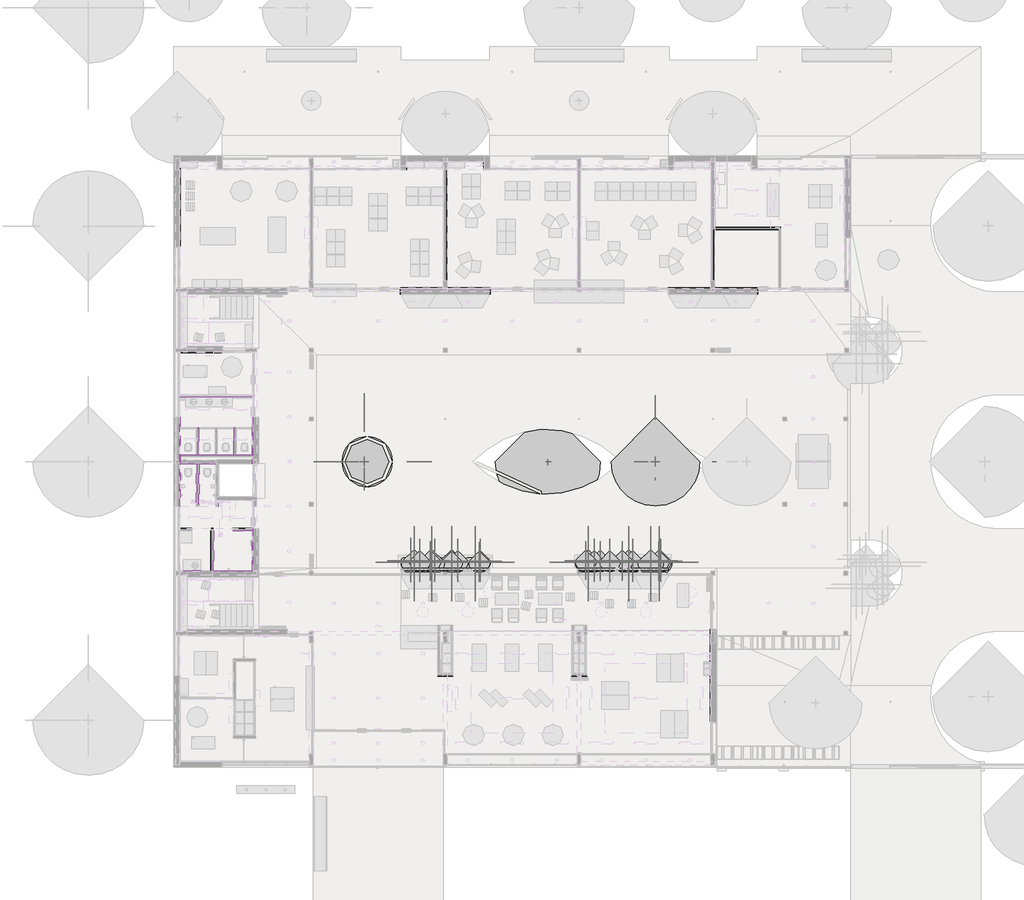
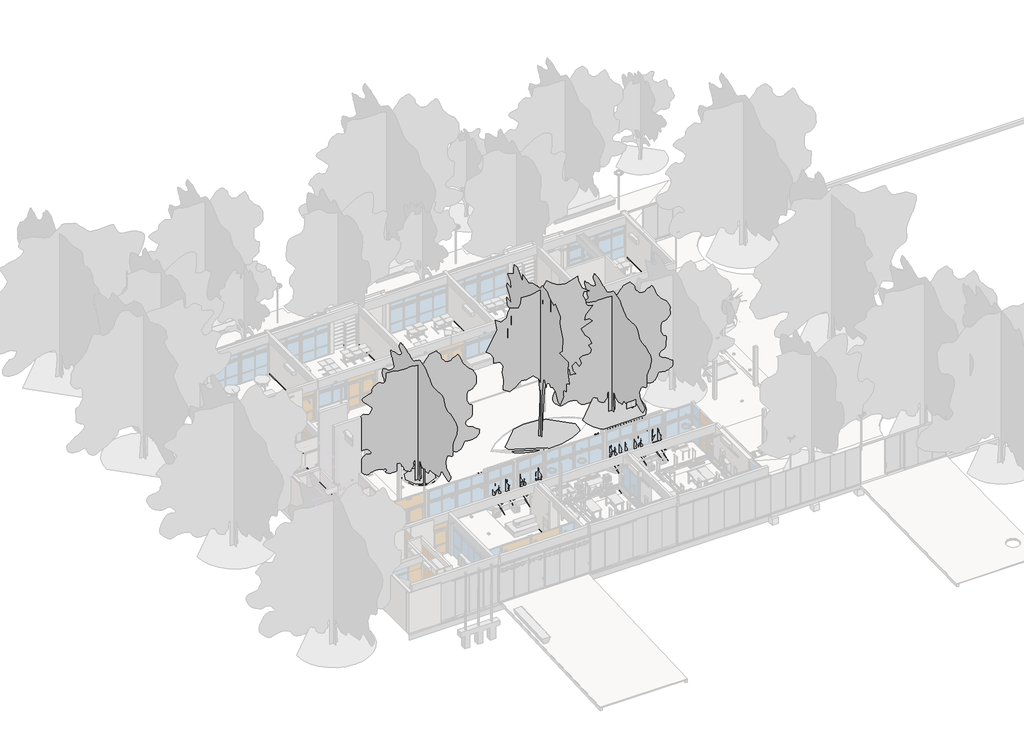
# One storey, part 21 of 22: 32 proxies, 27 geographic elements.
"""IFC4 building model written with IfcOpenShell, lengths in millimetres."""

from ifc_helpers import new_model, si_unit, frame, origin, origin_with_axes, place, context, project, spatial, polyline, outline, extrude, faceted_brep, transform, mapped, element, save
from components import geographic_element_fd73dbfa, geographic_element_77ae9e36, geographic_element_7a9d7ef0, geographic_element_423ec4e2, geographic_element_e3a35ce8

model = new_model("IFC4")

# Units and contexts
model_context = context("Model", 3, world=origin())
ifc_project = project(units=[si_unit("LENGTHUNIT", "METRE", prefix="MILLI")], contexts=[model_context])

# Site, building, storey
site = spatial("IfcSite", under=ifc_project)
building = spatial("IfcBuilding", under=site)
storey = spatial("IfcBuildingStorey", under=building, Name="PLanta baja", Elevation=0.0)

# Proxies
placement = place(None, origin())
element("IfcBuildingElementProxy", 1, Name="23-BAR-ZÓCALO DE BALDOSA H 70mm", ObjectType="23-BAR-ZÓCALO DE BALDOSA H 70mm", at=placement, inside=storey, context=model_context, shape_type="SweptSolid", body=[
    extrude(outline(polyline([(3403.7173694, 31430.2304035), (3413.7173694, 31420.2304035), (3413.7173694, 27020.2304035), (3403.7173694, 27020.2304035), (3403.7173694, 31430.2304035)])), origin_with_axes(), (0.0, 0.0, 1.0), 70.0),
    extrude(outline(polyline([(3413.7173694, 31420.2304035), (3403.7173694, 31430.2304035), (5288.7173693, 31430.2304035), (5278.7173693, 31420.2304035), (3413.7173694, 31420.2304035)])), origin_with_axes(), (0.0, 0.0, 1.0), 70.0),
    extrude(outline(polyline([(5278.7173693, 31420.2304035), (5288.7173693, 31430.2304035), (5288.7173693, 31020.2304035), (5278.7173693, 31020.2304035), (5278.7173693, 31420.2304035)])), origin_with_axes(), (0.0, 0.0, 1.0), 70.0),
])
element("IfcBuildingElementProxy", 2, Name="23-BAR-ZÓCALO DE BALDOSA H 70mm", ObjectType="23-BAR-ZÓCALO DE BALDOSA H 70mm", at=placement, inside=storey, context=model_context, shape_type="SweptSolid", body=[
    extrude(outline(polyline([(19088.7173693, 31020.2304035), (19078.7173693, 31020.2304035), (19078.7173693, 31420.2304035), (19088.7173693, 31430.2304035), (19088.7173693, 31020.2304035)])), origin_with_axes(), (0.0, 0.0, 1.0), 70.0),
    extrude(outline(polyline([(15098.7173693, 31420.2304035), (15088.7173693, 31430.2304035), (19088.7173693, 31430.2304035), (19078.7173693, 31420.2304035), (15098.7173693, 31420.2304035)])), origin_with_axes(), (0.0, 0.0, 1.0), 70.0),
    extrude(outline(polyline([(15088.7173693, 31430.2304035), (15098.7173693, 31420.2304035), (15098.7173693, 31020.2304035), (15088.7173693, 31020.2304035), (15088.7173693, 31430.2304035)])), origin_with_axes(), (0.0, 0.0, 1.0), 70.0),
    extrude(outline(polyline([(28898.7173693, 31020.2272437), (28888.7173693, 31020.2272437), (28888.7173693, 31430.2304035), (28898.7173693, 31420.2304035), (28898.7173693, 31020.2272437)])), origin_with_axes(), (0.0, 0.0, 1.0), 70.0),
    extrude(outline(polyline([(28898.7173693, 31420.2304035), (28888.7173693, 31430.2304035), (30788.7173693, 31430.2304035), (30788.7173693, 31420.2304035), (28898.7173693, 31420.2304035)])), origin_with_axes(), (0.0, 0.0, 1.0), 70.0),
])
element("IfcBuildingElementProxy", 3, Name="23-BAR-ZÓCALO DE EPS", ObjectType="23-BAR-ZÓCALO DE EPS", at=placement, inside=storey, context=model_context, shape_type="SweptSolid", body=[
    extrude(outline(polyline([(34281.7173693, 27933.2304035), (34288.7173693, 27940.2304035), (34288.7173693, 24921.8622631), (34281.7173693, 24921.8622631), (34281.7173693, 27933.2304035)])), origin_with_axes(), (0.0, 0.0, 1.0), 50.0),
    extrude(outline(polyline([(34288.7173693, 27940.2304035), (34281.7173693, 27933.2304035), (30925.7173693, 27933.2304035), (30918.7173693, 27940.2304035), (34288.7173693, 27940.2304035)])), origin_with_axes(), (0.0, 0.0, 1.0), 50.0),
    extrude(outline(polyline([(30796.7173693, 27940.2304035), (30803.7173693, 27940.2304035), (30803.7173693, 25320.2304035), (30796.7173693, 25320.2304035), (30796.7173693, 27940.2304035)])), origin_with_axes(), (0.0, 0.0, 1.0), 50.0),
    extrude(outline(polyline([(30796.7173693, 31020.2304035), (30803.7173693, 31020.2304035), (30803.7173693, 29050.2304035), (30796.7173693, 29050.2304035), (30796.7173693, 31020.2304035)])), origin_with_axes(), (0.0, 0.0, 1.0), 50.0),
    extrude(outline(polyline([(24053.7173694, 31020.2304035), (24060.7173694, 31020.2304035), (24060.7173694, 25320.2304035), (24053.7173694, 25320.2304035), (24053.7173694, 31020.2304035)])), origin_with_axes(), (0.0, 0.0, 1.0), 50.0),
    extrude(outline(polyline([(17153.7173694, 31020.2304035), (17160.7173694, 31020.2304035), (17160.7173694, 25320.2304035), (17153.7173694, 25320.2304035), (17153.7173694, 31020.2304035)])), origin_with_axes(), (0.0, 0.0, 1.0), 50.0),
    extrude(outline(polyline([(10253.7173694, 31020.2304035), (10260.7173694, 31020.2304035), (10260.7173694, 25320.2304035), (10253.7173694, 25320.2304035), (10253.7173694, 31020.2304035)])), origin_with_axes(), (0.0, 0.0, 1.0), 50.0),
    extrude(outline(polyline([(30796.7173693, 29050.2304035), (30803.7173693, 29050.2304035), (30803.7173693, 27940.2304035), (30796.7173693, 27940.2304035), (30796.7173693, 29050.2304035)])), origin_with_axes(), (0.0, 0.0, 1.0), 50.0),
])
element("IfcBuildingElementProxy", 4, Name="23-BAR-ZÓCALO DE EPS", ObjectType="23-BAR-ZÓCALO DE EPS", at=placement, inside=storey, context=model_context, shape_type="SweptSolid", body=[
    extrude(outline(polyline([(30918.7173693, 27940.2304035), (30925.7173693, 27933.2304035), (30925.7173693, 25320.2304035), (30918.7173693, 25320.2304035), (30918.7173693, 27940.2304035)])), origin_with_axes(), (0.0, 0.0, 1.0), 50.0),
    extrude(outline(polyline([(34388.7173693, 28040.2304035), (34395.7173693, 28047.2304035), (34395.7173693, 24921.8622631), (34388.7173693, 24921.8622631), (34388.7173693, 28040.2304035)])), origin_with_axes(), (0.0, 0.0, 1.0), 50.0),
    extrude(outline(polyline([(34395.7173693, 28047.2304035), (34388.7173693, 28040.2304035), (31003.7173693, 28040.2304035), (31003.7173693, 28047.2304035), (34395.7173693, 28047.2304035)])), origin_with_axes(), (0.0, 0.0, 1.0), 50.0),
    extrude(outline(polyline([(23916.7173694, 31020.2304035), (23923.7173694, 31020.2304035), (23923.7173694, 25320.2304035), (23916.7173694, 25320.2304035), (23916.7173694, 31020.2304035)])), origin_with_axes(), (0.0, 0.0, 1.0), 50.0),
    extrude(outline(polyline([(17016.7173694, 31020.2304035), (17023.7173694, 31020.2304035), (17023.7173694, 25320.2304035), (17016.7173694, 25320.2304035), (17016.7173694, 31020.2304035)])), origin_with_axes(), (0.0, 0.0, 1.0), 50.0),
    extrude(outline(polyline([(10116.7173694, 31020.2304035), (10123.7173694, 31020.2304035), (10123.7173694, 25320.2304035), (10116.7173694, 25320.2304035), (10116.7173694, 31020.2304035)])), origin_with_axes(), (0.0, 0.0, 1.0), 50.0),
])
element("IfcBuildingElementProxy", 5, Name="23-BAR-ZÓCALO DE BALDOSA H 70mm", ObjectType="23-BAR-ZÓCALO DE BALDOSA H 70mm", at=placement, inside=storey, context=model_context, shape_type="SweptSolid", body=[
    extrude(outline(polyline([(3788.7173693, 24935.2304035), (3788.7173693, 24945.2304035), (8938.7173694, 24945.2304035), (8938.7173694, 24935.2304035), (3788.7173693, 24935.2304035)])), origin_with_axes(), (0.0, 0.0, 1.0), 70.0),
    extrude(outline(polyline([(14788.7173694, 24920.2304035), (14788.7173694, 24930.2304035), (19388.7173694, 24930.2304035), (19388.7173694, 24920.2304035), (14788.7173694, 24920.2304035)])), origin_with_axes(), (0.0, 0.0, 1.0), 70.0),
    extrude(outline(polyline([(28588.7173694, 24920.2304035), (28588.7173694, 24930.2304035), (33188.7173693, 24930.2304035), (33188.7173693, 24920.2304035), (28588.7173694, 24920.2304035)])), origin_with_axes(), (0.0, 0.0, 1.0), 70.0),
    extrude(outline(polyline([(37663.7173693, 30817.8091111), (37673.7173693, 30817.8091111), (37673.7173693, 27520.2304035), (37663.7173693, 27520.2304035), (37663.7173693, 30817.8091111)])), origin_with_axes(), (0.0, 0.0, 1.0), 70.0),
])
element("IfcBuildingElementProxy", 6, Name="23-BAR-ZÓCALO DE BALDOSA H 70mm", ObjectType="23-BAR-ZÓCALO DE BALDOSA H 70mm", at=placement, inside=storey, context=model_context, shape_type="Brep", body=[
    faceted_brep([(14788.7173694, 24610.2304035, 70.0), (14778.7173694, 24600.2304035, 70.0), (19398.7173694, 24600.2304035, 70.0), (19388.7173694, 24610.2304035, 70.0), (14788.7173694, 24610.2304035, 0.0), (19388.7173694, 24610.2304035, 0.0), (14778.7173694, 24600.2304035, 0.0), (19398.7173694, 24600.2304035, 0.0), (19398.7173694, 24854.2304035, 70.0), (19398.7173694, 24854.2304035, 0.0), (19388.7173694, 24854.2304035, 0.0), (19388.7173694, 24854.2304035, 70.0), (14778.7173694, 24854.2233389, 70.0), (14788.7173694, 24854.2233389, 70.0), (14788.7173694, 24854.2233389, 0.0), (14778.7173694, 24854.2233389, 0.0)], [[[0, 1, 2, 3]], [[4, 0, 3, 5]], [[6, 4, 5, 7]], [[1, 6, 7, 2]], [[8, 9, 10, 11]], [[3, 2, 8, 11]], [[5, 3, 11, 10]], [[7, 5, 10, 9]], [[2, 7, 9, 8]], [[12, 13, 14, 15]], [[13, 12, 1, 0]], [[14, 13, 0, 4]], [[15, 14, 4, 6]], [[12, 15, 6, 1]]]),
    faceted_brep([(28588.7173694, 24610.2304035, 70.0), (28578.7173694, 24600.2304035, 70.0), (33198.7173693, 24600.2304035, 70.0), (33188.7173693, 24610.2304035, 70.0), (28588.7173694, 24610.2304035, 0.0), (33188.7173693, 24610.2304035, 0.0), (28578.7173694, 24600.2304035, 0.0), (33198.7173693, 24600.2304035, 0.0), (28578.7173694, 24854.2398366, 70.0), (28588.7173694, 24854.2398366, 70.0), (28588.7173694, 24854.2398366, 0.0), (28578.7173694, 24854.2398366, 0.0), (33198.7173693, 24854.2420438, 70.0), (33198.7173693, 24854.2420438, 0.0), (33188.7173693, 24854.2420438, 0.0), (33188.7173693, 24854.2420438, 70.0)], [[[0, 1, 2, 3]], [[4, 0, 3, 5]], [[6, 4, 5, 7]], [[1, 6, 7, 2]], [[8, 9, 10, 11]], [[9, 8, 1, 0]], [[10, 9, 0, 4]], [[11, 10, 4, 6]], [[8, 11, 6, 1]], [[12, 13, 14, 15]], [[3, 2, 12, 15]], [[5, 3, 15, 14]], [[7, 5, 14, 13]], [[2, 7, 13, 12]]]),
])
element("IfcBuildingElementProxy", 7, Name="23-BAR-ZÓCALO DE BALDOSA H 70mm", ObjectType="23-BAR-ZÓCALO DE BALDOSA H 70mm", at=placement, inside=storey, context=model_context, shape_type="SweptSolid", body=[
    extrude(outline(polyline([(3788.7173693, 21595.2304035), (3788.7173693, 21605.2304035), (5618.7173693, 21605.2304035), (5618.7173693, 21595.2304035), (3788.7173693, 21595.2304035)])), origin_with_axes(), (0.0, 0.0, 1.0), 70.0),
    extrude(outline(polyline([(3388.7173694, 21595.2304035), (3388.7173694, 21605.2304035), (3788.7173693, 21605.2304035), (3788.7173693, 21595.2304035), (3388.7173694, 21595.2304035)])), origin_with_axes(), (0.0, 0.0, 1.0), 70.0),
])
element("IfcBuildingElementProxy", 8, Name="23-BAR-ZÓCALO DE BALDOSA H 70mm", ObjectType="23-BAR-ZÓCALO DE BALDOSA H 70mm", at=placement, inside=storey, context=model_context, shape_type="SweptSolid", body=[
    extrude(outline(polyline([(3413.7173694, 19420.2304035), (3413.7173694, 19430.2304035), (7134.7173694, 19430.2304035), (7134.7173694, 19420.2304035), (3413.7173694, 19420.2304035)])), origin_with_axes(), (0.0, 0.0, 1.0), 70.0),
])
element("IfcBuildingElementProxy", 9, Name="23-BAR-ZÓCALO DE BALDOSA H 70mm", ObjectType="23-BAR-ZÓCALO DE BALDOSA H 70mm", at=placement, inside=storey, context=model_context, shape_type="SweptSolid", body=[
    extrude(outline(polyline([(5365.9489127, 13670.2304035), (5375.9489127, 13660.2304035), (5250.9489127, 13660.2304035), (5250.9489127, 13670.2304035), (5365.9489127, 13670.2304035)])), frame((0.0, 0.0, 1.0), z_axis=(0.0, 0.0, 1.0), x_axis=(1.0, 0.0, 0.0)), (0.0, 0.0, 1.0), 70.0),
    extrude(outline(polyline([(4400.9489127, 13670.2304035), (4400.9489127, 13660.2304035), (4258.7173694, 13660.2304035), (4258.7173694, 13670.2304035), (4400.9489127, 13670.2304035)])), frame((0.0, 0.0, 1.0), z_axis=(0.0, 0.0, 1.0), x_axis=(1.0, 0.0, 0.0)), (0.0, 0.0, 1.0), 70.0),
    extrude(outline(polyline([(7158.7173694, 13970.2304035), (7168.7173694, 13970.2304035), (7168.7173694, 13670.2304035), (7158.7173694, 13670.2304035), (7158.7173694, 13970.2304035)])), frame((0.0, 0.0, 1.0), z_axis=(0.0, 0.0, 1.0), x_axis=(1.0, 0.0, 0.0)), (0.0, 0.0, 1.0), 70.0),
    extrude(outline(polyline([(5365.9489127, 13945.2304035), (5375.9489127, 13945.2304035), (5375.9489127, 13660.2304035), (5365.9489127, 13670.2304035), (5365.9489127, 13945.2304035)])), frame((0.0, 0.0, 1.0), z_axis=(0.0, 0.0, 1.0), x_axis=(1.0, 0.0, 0.0)), (0.0, 0.0, 1.0), 70.0),
    extrude(outline(polyline([(6133.7173694, 12520.2304035), (6133.7173694, 12530.2304035), (7148.7173693, 12530.2304035), (7148.7173693, 12520.2304035), (6133.7173694, 12520.2304035)])), frame((0.0, 0.0, 1.0), z_axis=(0.0, 0.0, 1.0), x_axis=(1.0, 0.0, 0.0)), (0.0, 0.0, 1.0), 70.0),
    extrude(outline(polyline([(3413.7173694, 12520.2304035), (3413.7173694, 12530.2304035), (4018.7173694, 12530.2304035), (4018.7173694, 12520.2304035), (3413.7173694, 12520.2304035)])), frame((0.0, 0.0, 1.0), z_axis=(0.0, 0.0, 1.0), x_axis=(1.0, 0.0, 0.0)), (0.0, 0.0, 1.0), 70.0),
    extrude(outline(polyline([(5018.7173694, 12520.2304035), (5018.7173694, 12530.2304035), (5133.7173694, 12530.2304035), (5133.7173694, 12520.2304035), (5018.7173694, 12520.2304035)])), frame((0.0, 0.0, 1.0), z_axis=(0.0, 0.0, 1.0), x_axis=(1.0, 0.0, 0.0)), (0.0, 0.0, 1.0), 70.0),
])
element("IfcBuildingElementProxy", 10, Name="23-BAR-ZÓCALO DE BALDOSA H 70mm", ObjectType="23-BAR-ZÓCALO DE BALDOSA H 70mm", at=placement, inside=storey, context=model_context, shape_type="SweptSolid", body=[
    extrude(outline(polyline([(3413.7173694, 12400.2304035), (3413.7173694, 12410.2304035), (4018.7173694, 12410.2304035), (4018.7173694, 12400.2304035), (3413.7173694, 12400.2304035)])), frame((0.0, 0.0, 1.0), z_axis=(0.0, 0.0, 1.0), x_axis=(1.0, 0.0, 0.0)), (0.0, 0.0, 1.0), 70.0),
    extrude(outline(polyline([(5018.7173694, 10335.2304035), (5008.7173694, 10345.2304035), (5008.7173694, 12410.2304035), (5018.7173694, 12410.2304035), (5018.7173694, 10335.2304035)])), frame((0.0, 0.0, 1.0), z_axis=(0.0, 0.0, 1.0), x_axis=(1.0, 0.0, 0.0)), (0.0, 0.0, 1.0), 70.0),
    extrude(outline(polyline([(5008.7173694, 10345.2304035), (5018.7173694, 10335.2304035), (4437.7575549, 10335.2304035), (4437.7575549, 10345.2304035), (5008.7173694, 10345.2304035)])), frame((0.0, 0.0, 1.0), z_axis=(0.0, 0.0, 1.0), x_axis=(1.0, 0.0, 0.0)), (0.0, 0.0, 1.0), 70.0),
    extrude(outline(polyline([(5018.7173694, 12400.2304035), (5018.7173694, 12410.2304035), (5133.7173694, 12410.2304035), (5133.7173694, 12400.2304035), (5018.7173694, 12400.2304035)])), frame((0.0, 0.0, 1.0), z_axis=(0.0, 0.0, 1.0), x_axis=(1.0, 0.0, 0.0)), (0.0, 0.0, 1.0), 70.0),
])
element("IfcBuildingElementProxy", 11, Name="23-BAR-ZÓCALO DE BALDOSA H 70mm", ObjectType="23-BAR-ZÓCALO DE BALDOSA H 70mm", at=placement, inside=storey, context=model_context, shape_type="SweptSolid", body=[
    extrude(outline(polyline([(3388.7173694, 10335.2304035), (3388.7173694, 10345.2304035), (3641.7575549, 10345.2304035), (3641.7575549, 10335.2304035), (3388.7173694, 10335.2304035)])), origin_with_axes(), (0.0, 0.0, 1.0), 70.0),
])
element("IfcBuildingElementProxy", 12, Name="23-BAR-ZÓCALO DE BALDOSA H 70mm", ObjectType="23-BAR-ZÓCALO DE BALDOSA H 70mm", at=placement, inside=storey, context=model_context, shape_type="SweptSolid", body=[
    extrude(outline(polyline([(3788.7173693, 6995.2304035), (3788.7173693, 7005.2304035), (8938.7173694, 7005.2304035), (8938.7173694, 6995.2304035), (3788.7173693, 6995.2304035)])), origin_with_axes(), (0.0, 0.0, 1.0), 70.0),
])
element("IfcBuildingElementProxy", 13, Name="23-BAR-ZÓCALO L DE CHAPA PLEGADA", ObjectType="23-BAR-ZÓCALO L DE CHAPA PLEGADA", at=placement, inside=storey, context=model_context, shape_type="Brep", body=[
    faceted_brep([(7315.7173693, 1718.2304035, 0.0), (7315.7173693, 1718.2304035, 50.0), (6161.7173693, 1718.2304035, 50.0), (6161.7173693, 1718.2304035, 0.0), (7313.7173693, 1720.2304035, 0.0), (6163.7173693, 1720.2304035, 0.0), (7313.7173693, 1720.2304035, 50.0), (6163.7173693, 1720.2304035, 50.0), (7315.7173693, 1840.2304035, 50.0), (7315.7173693, 1840.2304035, 0.0), (7313.7173693, 1840.2304035, 0.0), (7313.7173693, 1840.2304035, 50.0), (6161.7173693, 1835.2304035, 50.0), (6163.7173693, 1835.2304035, 50.0), (6163.7173693, 1835.2304035, 0.0), (6161.7173693, 1835.2304035, 0.0)], [[[0, 1, 2, 3]], [[4, 0, 3, 5]], [[6, 4, 5, 7]], [[1, 6, 7, 2]], [[8, 9, 10, 11]], [[9, 8, 1, 0]], [[10, 9, 0, 4]], [[11, 10, 4, 6]], [[8, 11, 6, 1]], [[12, 13, 14, 15]], [[3, 2, 12, 15]], [[5, 3, 15, 14]], [[7, 5, 14, 13]], [[2, 7, 13, 12]]]),
    faceted_brep([(6161.7173693, 5797.2304035, 50.0), (6161.7173693, 5797.2304035, 0.0), (6163.7173693, 5795.2304035, 0.0), (6163.7173693, 5795.2304035, 50.0), (7313.7173693, 5795.2304035, 50.0), (7315.7173693, 5797.2304035, 50.0), (7313.7173693, 5795.2304035, 0.0), (7315.7173693, 5797.2304035, 0.0), (7315.7173693, 5680.2304035, 50.0), (7313.7173693, 5680.2304035, 50.0), (7313.7173693, 5680.2304035, 0.0), (7315.7173693, 5680.2304035, 0.0)], [[[0, 1, 2, 3]], [[4, 5, 0, 3]], [[6, 4, 3, 2]], [[7, 6, 2, 1]], [[5, 7, 1, 0]], [[8, 9, 10, 11]], [[9, 8, 5, 4]], [[10, 9, 4, 6]], [[11, 10, 6, 7]], [[8, 11, 7, 5]]]),
    faceted_brep([(6161.7173693, 5797.2304035, 50.0), (6163.7173693, 5795.2304035, 50.0), (6163.7173693, 5795.2304035, 0.0), (6161.7173693, 5797.2304035, 0.0), (6161.7173693, 3685.2304035, 50.0), (6161.7173693, 3685.2304035, 0.0), (6163.7173693, 3685.2304035, 0.0), (6163.7173693, 3685.2304035, 50.0)], [[[0, 1, 2, 3]], [[4, 5, 6, 7]], [[1, 0, 4, 7]], [[2, 1, 7, 6]], [[3, 2, 6, 5]], [[0, 3, 5, 4]]]),
])
element("IfcBuildingElementProxy", 14, Name="23-BAR-ZÓCALO DE EPS", ObjectType="23-BAR-ZÓCALO DE EPS", at=placement, inside=storey, context=model_context, shape_type="SweptSolid", body=[
    extrude(outline(polyline([(6688.7173693, 1842.2304035), (6688.7173693, 1835.2304035), (6163.7173693, 1835.2304035), (6163.7173693, 1842.2304035), (6688.7173693, 1842.2304035)])), origin_with_axes(), (0.0, 0.0, 1.0), 50.0),
    extrude(outline(polyline([(6278.7173693, 5680.2304035), (6285.7173693, 5673.2304035), (6285.7173693, 3788.5304035), (6278.7173693, 3788.5304035), (6278.7173693, 5680.2304035)])), origin_with_axes(), (0.0, 0.0, 1.0), 50.0),
    extrude(outline(polyline([(7266.0033396, 5680.2304035), (7266.0033396, 5673.2304035), (6285.7173693, 5673.2304035), (6278.7173693, 5680.2304035), (7266.0033396, 5680.2304035)])), origin_with_axes(), (0.0, 0.0, 1.0), 50.0),
])
element("IfcBuildingElementProxy", 15, Name="23-BAR-ZÓCALO DE MADERA h=7cm", ObjectType="23-BAR-ZÓCALO DE MADERA h=7cm", at=placement, inside=storey, context=model_context, shape_type="SweptSolid", body=[
    extrude(outline(polyline([(16988.7173694, 10120.2304035), (16988.7173694, 10110.2304035), (14888.7173693, 10110.2304035), (14888.7173693, 10120.2304035), (16988.7173694, 10120.2304035)])), origin_with_axes(), (0.0, 0.0, 1.0), 70.0),
    extrude(outline(polyline([(19288.7173694, 10120.2304035), (19288.7173694, 10110.2304035), (17188.7173694, 10110.2304035), (17188.7173694, 10120.2304035), (19288.7173694, 10120.2304035)])), origin_with_axes(), (0.0, 0.0, 1.0), 70.0),
])
element("IfcBuildingElementProxy", 16, Name="23-BAR-ZÓCALO DE MADERA h=7cm", ObjectType="23-BAR-ZÓCALO DE MADERA h=7cm", at=placement, inside=storey, context=model_context, shape_type="SweptSolid", body=[
    extrude(outline(polyline([(24088.7173694, 10110.2304035), (24088.7173694, 10120.2304035), (28488.7173694, 10120.2304035), (28488.7173694, 10110.2304035), (24088.7173694, 10110.2304035)])), origin_with_axes(), (0.0, 0.0, 1.0), 70.0),
])
element("IfcBuildingElementProxy", 17, Name="23-BAR-ZÓCALO DE BALDOSA H 70mm", ObjectType="23-BAR-ZÓCALO DE BALDOSA H 70mm", at=placement, inside=storey, context=model_context, shape_type="SweptSolid", body=[
    extrude(outline(polyline([(30763.7173693, 7330.2304035), (30773.7173693, 7330.2304035), (30773.7173693, 2520.2304035), (30763.7173693, 2520.2304035), (30763.7173693, 7330.2304035)])), origin_with_axes(), (0.0, 0.0, 1.0), 70.0),
])
element("IfcBuildingElementProxy", 18, Name="23-BAR-CANTONERA PERFIL L", ObjectType="23-BAR-CANTONERA PERFIL L", at=placement, inside=storey, context=model_context, shape_type="Brep", body=[
    faceted_brep([(6192.7173694, 16320.2304035, 2101.0), (6182.7173694, 16320.2304035, 2101.0), (6182.7173694, 16320.2304035, 2091.0), (6183.7173694, 16320.2304035, 2091.0), (6183.7173694, 16320.2304035, 2100.0), (6192.7173694, 16320.2304035, 2100.0), (6192.7173694, 17711.2304035, 2101.0), (6182.7173694, 17721.2304035, 2101.0), (6182.7173694, 17721.2304035, 2091.0), (6183.7173694, 17720.2304035, 2091.0), (6183.7173694, 17720.2304035, 2100.0), (6192.7173694, 17711.2304035, 2100.0), (6251.488731, 17711.2304035, 2101.0), (6251.488731, 17711.2304035, 2100.0), (6251.488731, 17720.2304035, 2100.0), (6251.488731, 17720.2304035, 2091.0), (6251.488731, 17721.2304035, 2091.0), (6251.488731, 17721.2304035, 2101.0)], [[[0, 1, 2, 3, 4, 5]], [[1, 0, 6, 7]], [[2, 1, 7, 8]], [[3, 2, 8, 9]], [[4, 3, 9, 10]], [[5, 4, 10, 11]], [[0, 5, 11, 6]], [[12, 13, 14, 15, 16, 17]], [[7, 6, 12, 17]], [[8, 7, 17, 16]], [[9, 8, 16, 15]], [[10, 9, 15, 14]], [[11, 10, 14, 13]], [[6, 11, 13, 12]]]),
    faceted_brep([(5227.7173694, 16320.2304035, 2101.0), (5217.7173694, 16320.2304035, 2101.0), (5217.7173694, 16320.2304035, 2091.0), (5218.7173694, 16320.2304035, 2091.0), (5218.7173694, 16320.2304035, 2100.0), (5227.7173694, 16320.2304035, 2100.0), (5227.7173694, 17711.2304035, 2101.0), (5217.7173694, 17721.2304035, 2101.0), (5217.7173694, 17721.2304035, 2091.0), (5218.7173694, 17720.2304035, 2091.0), (5218.7173694, 17720.2304035, 2100.0), (5227.7173694, 17711.2304035, 2100.0), (5283.7173694, 17711.2304035, 2101.0), (5283.7173694, 17711.2304035, 2100.0), (5283.7173694, 17720.2304035, 2100.0), (5283.7173694, 17720.2304035, 2091.0), (5283.7173694, 17721.2304035, 2091.0), (5283.7173694, 17721.2304035, 2101.0)], [[[0, 1, 2, 3, 4, 5]], [[1, 0, 6, 7]], [[2, 1, 7, 8]], [[3, 2, 8, 9]], [[4, 3, 9, 10]], [[5, 4, 10, 11]], [[0, 5, 11, 6]], [[12, 13, 14, 15, 16, 17]], [[7, 6, 12, 17]], [[8, 7, 17, 16]], [[9, 8, 16, 15]], [[10, 9, 15, 14]], [[11, 10, 14, 13]], [[6, 11, 13, 12]]]),
    faceted_brep([(4262.7173694, 16320.2304035, 2101.0), (4252.7173694, 16320.2304035, 2101.0), (4252.7173694, 16320.2304035, 2091.0), (4253.7173694, 16320.2304035, 2091.0), (4253.7173694, 16320.2304035, 2100.0), (4262.7173694, 16320.2304035, 2100.0), (4262.7173694, 17711.2304035, 2101.0), (4252.7173694, 17721.2304035, 2101.0), (4252.7173694, 17721.2304035, 2091.0), (4253.7173694, 17720.2304035, 2091.0), (4253.7173694, 17720.2304035, 2100.0), (4262.7173694, 17711.2304035, 2100.0), (4311.8901328, 17711.2304035, 2101.0), (4311.8901328, 17711.2304035, 2100.0), (4311.8901328, 17720.2304035, 2100.0), (4311.8901328, 17720.2304035, 2091.0), (4311.8901328, 17721.2304035, 2091.0), (4311.8901328, 17721.2304035, 2101.0)], [[[0, 1, 2, 3, 4, 5]], [[1, 0, 6, 7]], [[2, 1, 7, 8]], [[3, 2, 8, 9]], [[4, 3, 9, 10]], [[5, 4, 10, 11]], [[0, 5, 11, 6]], [[12, 13, 14, 15, 16, 17]], [[7, 6, 12, 17]], [[8, 7, 17, 16]], [[9, 8, 16, 15]], [[10, 9, 15, 14]], [[11, 10, 14, 13]], [[6, 11, 13, 12]]]),
])
element("IfcBuildingElementProxy", 19, Name="23-BAR-CANTONERA PERFIL L", ObjectType="23-BAR-CANTONERA PERFIL L", at=placement, inside=storey, context=model_context, shape_type="Brep", body=[
    faceted_brep([(6294.7173694, 16320.2304035, 2101.0), (6294.7173694, 16320.2304035, 2100.0), (6303.7173694, 16320.2304035, 2100.0), (6303.7173694, 16320.2304035, 2091.0), (6304.7173694, 16320.2304035, 2091.0), (6304.7173694, 16320.2304035, 2101.0), (6294.7173694, 17711.2304035, 2101.0), (6294.7173694, 17711.2304035, 2100.0), (6303.7173694, 17720.2304035, 2100.0), (6303.7173694, 17720.2304035, 2091.0), (6304.7173694, 17721.2304035, 2091.0), (6304.7173694, 17721.2304035, 2101.0), (6251.488731, 17711.2304035, 2101.0), (6251.488731, 17721.2304035, 2101.0), (6251.488731, 17721.2304035, 2091.0), (6251.488731, 17720.2304035, 2091.0), (6251.488731, 17720.2304035, 2100.0), (6251.488731, 17711.2304035, 2100.0)], [[[0, 1, 2, 3, 4, 5]], [[1, 0, 6, 7]], [[2, 1, 7, 8]], [[3, 2, 8, 9]], [[4, 3, 9, 10]], [[5, 4, 10, 11]], [[0, 5, 11, 6]], [[12, 13, 14, 15, 16, 17]], [[7, 6, 12, 17]], [[8, 7, 17, 16]], [[9, 8, 16, 15]], [[10, 9, 15, 14]], [[11, 10, 14, 13]], [[6, 11, 13, 12]]]),
    faceted_brep([(5329.7173694, 16320.2304035, 2101.0), (5329.7173694, 16320.2304035, 2100.0), (5338.7173694, 16320.2304035, 2100.0), (5338.7173694, 16320.2304035, 2091.0), (5339.7173694, 16320.2304035, 2091.0), (5339.7173694, 16320.2304035, 2101.0), (5329.7173694, 17711.2304035, 2101.0), (5329.7173694, 17711.2304035, 2100.0), (5338.7173694, 17720.2304035, 2100.0), (5338.7173694, 17720.2304035, 2091.0), (5339.7173694, 17721.2304035, 2091.0), (5339.7173694, 17721.2304035, 2101.0), (5283.7173694, 17711.2304035, 2101.0), (5283.7173694, 17721.2304035, 2101.0), (5283.7173694, 17721.2304035, 2091.0), (5283.7173694, 17720.2304035, 2091.0), (5283.7173694, 17720.2304035, 2100.0), (5283.7173694, 17711.2304035, 2100.0)], [[[0, 1, 2, 3, 4, 5]], [[1, 0, 6, 7]], [[2, 1, 7, 8]], [[3, 2, 8, 9]], [[4, 3, 9, 10]], [[5, 4, 10, 11]], [[0, 5, 11, 6]], [[12, 13, 14, 15, 16, 17]], [[7, 6, 12, 17]], [[8, 7, 17, 16]], [[9, 8, 16, 15]], [[10, 9, 15, 14]], [[11, 10, 14, 13]], [[6, 11, 13, 12]]]),
    faceted_brep([(4364.7173694, 16320.2304035, 2101.0), (4364.7173694, 16320.2304035, 2100.0), (4373.7173694, 16320.2304035, 2100.0), (4373.7173694, 16320.2304035, 2091.0), (4374.7173694, 16320.2304035, 2091.0), (4374.7173694, 16320.2304035, 2101.0), (4364.7173694, 17711.2304035, 2101.0), (4364.7173694, 17711.2304035, 2100.0), (4373.7173694, 17720.2304035, 2100.0), (4373.7173694, 17720.2304035, 2091.0), (4374.7173694, 17721.2304035, 2091.0), (4374.7173694, 17721.2304035, 2101.0), (4311.8901328, 17711.2304035, 2101.0), (4311.8901328, 17721.2304035, 2101.0), (4311.8901328, 17721.2304035, 2091.0), (4311.8901328, 17720.2304035, 2091.0), (4311.8901328, 17720.2304035, 2100.0), (4311.8901328, 17711.2304035, 2100.0)], [[[0, 1, 2, 3, 4, 5]], [[1, 0, 6, 7]], [[2, 1, 7, 8]], [[3, 2, 8, 9]], [[4, 3, 9, 10]], [[5, 4, 10, 11]], [[0, 5, 11, 6]], [[12, 13, 14, 15, 16, 17]], [[7, 6, 12, 17]], [[8, 7, 17, 16]], [[9, 8, 16, 15]], [[10, 9, 15, 14]], [[11, 10, 14, 13]], [[6, 11, 13, 12]]]),
])
element("IfcBuildingElementProxy", 20, Name="23-BAR-BUÑA PLANCHUELA 20x3.3", ObjectType="23-BAR-BUÑA PLANCHUELA 20x3.3", at=placement, inside=storey, context=model_context, shape_type="SweptSolid", body=[
    extrude(outline(polyline([(7148.7173694, 16330.3304035), (7148.7173694, 16310.3304035), (3408.7173694, 16310.3304035), (3408.7173694, 16330.3304035), (7148.7173694, 16330.3304035)])), frame((0.0, 0.0, 2100.0), z_axis=(0.0, 0.0, 1.0), x_axis=(1.0, 0.0, 0.0)), (0.0, 0.0, 1.0), 3.3),
    extrude(outline(polyline([(3418.8173694, 13670.2304035), (3398.8173694, 13670.2304035), (3398.8173694, 18270.2304035), (3418.8173694, 18270.2304035), (3418.8173694, 13670.2304035)])), frame((0.0, 0.0, 2100.0), z_axis=(0.0, 0.0, 1.0), x_axis=(1.0, 0.0, 0.0)), (0.0, 0.0, 1.0), 3.3),
    extrude(outline(polyline([(7138.6173694, 18270.2304035), (7158.6173694, 18270.2304035), (7158.6173694, 15870.2304035), (7138.6173694, 15870.2304035), (7138.6173694, 18270.2304035)])), frame((0.0, 0.0, 2100.0), z_axis=(0.0, 0.0, 1.0), x_axis=(1.0, 0.0, 0.0)), (0.0, 0.0, 1.0), 3.3),
])
element("IfcBuildingElementProxy", 21, Name="23-BAR-BUÑA PLANCHUELA 20x3.3", ObjectType="23-BAR-BUÑA PLANCHUELA 20x3.3", at=placement, inside=storey, context=model_context, shape_type="SweptSolid", body=[
    extrude(outline(polyline([(3413.7173694, 19300.1304035), (3413.7173694, 19320.1304035), (7134.7173694, 19320.1304035), (7134.7173694, 19300.1304035), (3413.7173694, 19300.1304035)])), frame((0.0, 0.0, 2110.0), z_axis=(0.0, 0.0, 1.0), x_axis=(1.0, 0.0, 0.0)), (0.0, 0.0, 1.0), 3.3),
])
element("IfcBuildingElementProxy", 22, Name="23-BAR-BUÑA PLANCHUELA 20x3.3", ObjectType="23-BAR-BUÑA PLANCHUELA 20x3.3", at=placement, inside=storey, context=model_context, shape_type="SweptSolid", body=[
    extrude(outline(polyline([(3408.7173694, 15840.1304035), (3408.7173694, 15860.1304035), (4277.4203708, 15860.1304035), (4257.4203708, 15840.1304035), (3408.7173694, 15840.1304035)])), frame((0.0, 0.0, 2100.0), z_axis=(0.0, 0.0, 1.0), x_axis=(1.0, 0.0, 0.0)), (0.0, 0.0, 1.0), 3.3),
    extrude(outline(polyline([(4277.4203708, 13865.2304035), (4257.4203708, 13865.2304035), (4257.4203708, 15840.1304035), (4277.4203708, 15860.1304035), (4277.4203708, 13865.2304035)])), frame((0.0, 0.0, 2100.0), z_axis=(0.0, 0.0, 1.0), x_axis=(1.0, 0.0, 0.0)), (0.0, 0.0, 1.0), 3.3),
    extrude(outline(polyline([(5240.8489127, 15870.2304035), (5260.8489127, 15870.2304035), (5260.8489127, 13950.2304035), (5240.8489127, 13950.2304035), (5240.8489127, 15870.2304035)])), frame((0.0, 0.0, 2100.0), z_axis=(0.0, 0.0, 1.0), x_axis=(1.0, 0.0, 0.0)), (0.0, 0.0, 1.0), 3.3),
])
element("IfcBuildingElementProxy", 23, Name="23-BAR-BUÑA PLANCHUELA 20x3.3", ObjectType="23-BAR-BUÑA PLANCHUELA 20x3.3", at=placement, inside=storey, context=model_context, shape_type="SweptSolid", body=[
    extrude(outline(polyline([(4397.6203708, 13780.2304035), (4377.6203708, 13780.2304035), (4377.6203708, 15860.1304035), (4397.6203708, 15840.1304035), (4397.6203708, 13780.2304035)])), frame((0.0, 0.0, 2100.0), z_axis=(0.0, 0.0, 1.0), x_axis=(1.0, 0.0, 0.0)), (0.0, 0.0, 1.0), 3.3),
])
element("IfcBuildingElementProxy", 24, Name="23-BAR-BUÑA PLANCHUELA 20x3.3", ObjectType="23-BAR-BUÑA PLANCHUELA 20x3.3", at=placement, inside=storey, context=model_context, shape_type="SweptSolid", body=[
    extrude(outline(polyline([(4387.5203708, 15840.1304035), (4387.5203708, 15860.1304035), (5268.7173693, 15860.1304035), (5268.7173693, 15840.1304035), (4387.5203708, 15840.1304035)])), frame((0.0, 0.0, 2100.0), z_axis=(0.0, 0.0, 1.0), x_axis=(1.0, 0.0, 0.0)), (0.0, 0.0, 1.0), 3.3),
])
element("IfcBuildingElementProxy", 25, Name="23-BAR-BUÑA PLANCHUELA 20x3.3", ObjectType="23-BAR-BUÑA PLANCHUELA 20x3.3", at=placement, inside=storey, context=model_context, shape_type="SweptSolid", body=[
    extrude(outline(polyline([(7158.6173693, 10330.3304035), (7138.6173693, 10350.3304035), (7138.6173693, 12520.2304035), (7158.6173693, 12520.2304035), (7158.6173693, 10330.3304035)])), frame((0.0, 0.0, 2100.0), z_axis=(0.0, 0.0, 1.0), x_axis=(1.0, 0.0, 0.0)), (0.0, 0.0, 1.0), 3.3),
    extrude(outline(polyline([(7138.6173693, 10350.3304035), (7158.6173693, 10330.3304035), (5123.8173694, 10330.3304035), (5143.8173694, 10350.3304035), (7138.6173693, 10350.3304035)])), frame((0.0, 0.0, 2100.0), z_axis=(0.0, 0.0, 1.0), x_axis=(1.0, 0.0, 0.0)), (0.0, 0.0, 1.0), 3.3),
    extrude(outline(polyline([(6133.7173694, 12395.1304035), (6133.7173694, 12415.1304035), (7148.7173693, 12415.1304035), (7148.7173693, 12395.1304035), (6133.7173694, 12395.1304035)])), frame((0.0, 0.0, 2100.0), z_axis=(0.0, 0.0, 1.0), x_axis=(1.0, 0.0, 0.0)), (0.0, 0.0, 1.0), 3.3),
    extrude(outline(polyline([(5143.8173694, 10350.3304035), (5123.8173694, 10330.3304035), (5123.8173694, 12415.2304035), (5143.8173694, 12415.2304035), (5143.8173694, 10350.3304035)])), frame((0.0, 0.0, 2100.0), z_axis=(0.0, 0.0, 1.0), x_axis=(1.0, 0.0, 0.0)), (0.0, 0.0, 1.0), 3.3),
])
element("IfcBuildingElementProxy", 26, Name="23-BAR-BUÑA PLANCHUELA 20x3.3", ObjectType="23-BAR-BUÑA PLANCHUELA 20x3.3", at=placement, inside=storey, context=model_context, shape_type="SweptSolid", body=[
    extrude(outline(polyline([(4489.7575549, 10355.3304035), (4489.7575549, 10335.3304035), (4486.4575549, 10335.3304035), (4486.4575549, 10355.3304035), (4489.7575549, 10355.3304035)])), frame((0.0, 0.0, 900.0), z_axis=(0.0, 0.0, 1.0), x_axis=(1.0, 0.0, 0.0)), (0.0, 0.0, 1.0), 603.3),
])
element("IfcBuildingElementProxy", 27, Name="23-BAR-BUÑA PLANCHUELA 20x3.3", ObjectType="23-BAR-BUÑA PLANCHUELA 20x3.3", at=placement, inside=storey, context=model_context, shape_type="SweptSolid", body=[
    extrude(outline(polyline([(3593.0575549, 10355.3304035), (3593.0575549, 10335.3304035), (3589.7575549, 10335.3304035), (3589.7575549, 10355.3304035), (3593.0575549, 10355.3304035)])), frame((0.0, 0.0, 900.0), z_axis=(0.0, 0.0, 1.0), x_axis=(1.0, 0.0, 0.0)), (0.0, 0.0, 1.0), 603.3),
])
element("IfcBuildingElementProxy", 28, Name="23-BAR-BUÑA PLANCHUELA 20x3.3", ObjectType="23-BAR-BUÑA PLANCHUELA 20x3.3", at=placement, inside=storey, context=model_context, shape_type="SweptSolid", body=[
    extrude(outline(polyline([(3589.7575549, 10335.3304035), (3589.7575549, 10355.3304035), (4489.7575549, 10355.3304035), (4489.7575549, 10335.3304035), (3589.7575549, 10335.3304035)])), frame((0.0, 0.0, 1500.0), z_axis=(0.0, 0.0, 1.0), x_axis=(1.0, 0.0, 0.0)), (0.0, 0.0, 1.0), 3.3),
])
element("IfcBuildingElementProxy", 29, Name="23-BAR-ZÓCALO L DE CHAPA PLEGADA", ObjectType="23-BAR-ZÓCALO L DE CHAPA PLEGADA", at=placement, inside=storey, context=model_context, shape_type="SweptSolid", body=[
    extrude(outline(polyline([(17473.7173693, 7522.2304035), (17475.7173693, 7522.2304035), (17475.7173693, 7220.5637368), (17473.7173693, 7220.5637368), (17473.7173693, 7522.2304035)])), origin_with_axes(), (0.0, 0.0, 1.0), 50.0),
    extrude(outline(polyline([(17473.7173693, 5033.5637368), (17475.7173693, 5033.5637368), (17475.7173693, 4916.5637368), (17473.7173693, 4918.5637368), (17473.7173693, 5033.5637368)])), origin_with_axes(), (0.0, 0.0, 1.0), 50.0),
    extrude(outline(polyline([(17473.7173693, 4918.5637368), (17475.7173693, 4916.5637368), (16701.0966893, 4916.5637368), (16703.0966893, 4918.5637368), (17473.7173693, 4918.5637368)])), origin_with_axes(), (0.0, 0.0, 1.0), 50.0),
    extrude(outline(polyline([(16703.0966893, 4918.5637368), (16701.0966893, 4916.5637368), (16701.0966893, 7522.2304035), (16703.0966893, 7522.2304035), (16703.0966893, 4918.5637368)])), origin_with_axes(), (0.0, 0.0, 1.0), 50.0),
])
element("IfcBuildingElementProxy", 30, Name="23-BAR-ZÓCALO L DE CHAPA PLEGADA", ObjectType="23-BAR-ZÓCALO L DE CHAPA PLEGADA", at=placement, inside=storey, context=model_context, shape_type="SweptSolid", body=[
    extrude(outline(polyline([(24373.7173693, 7522.2304035), (24375.7173693, 7522.2304035), (24375.7173693, 7020.5637368), (24373.7173693, 7020.5637368), (24373.7173693, 7522.2304035)])), origin_with_axes(), (0.0, 0.0, 1.0), 50.0),
    extrude(outline(polyline([(24373.7173693, 5033.5637368), (24375.7173693, 5033.5637368), (24375.7173693, 4916.5637368), (24373.7173693, 4918.5637368), (24373.7173693, 5033.5637368)])), origin_with_axes(), (0.0, 0.0, 1.0), 50.0),
])
element("IfcBuildingElementProxy", 31, Name="23-BAR-ZÓCALO L DE CHAPA PLEGADA", ObjectType="23-BAR-ZÓCALO L DE CHAPA PLEGADA", at=placement, inside=storey, context=model_context, shape_type="Brep", body=[
    faceted_brep([(24375.7173693, 4916.5637368, 50.0), (24375.7173693, 4916.5637368, 0.0), (24373.7173693, 4918.5637368, 0.0), (24373.7173693, 4918.5637368, 50.0), (23603.0966893, 4916.5637368, 50.0), (23603.0966893, 4918.5637368, 50.0), (23603.0966893, 4918.5637368, 0.0), (23603.0966893, 4916.5637368, 0.0)], [[[0, 1, 2, 3]], [[4, 5, 6, 7]], [[1, 0, 4, 7]], [[2, 1, 7, 6]], [[3, 2, 6, 5]], [[0, 3, 5, 4]]]),
    faceted_brep([(23601.0966893, 7220.5637368, 50.0), (23601.0966893, 7220.5637368, 0.0), (23603.0966893, 7220.5637368, 0.0), (23603.0966893, 7220.5637368, 50.0), (23601.0966893, 7524.2304035, 50.0), (23601.0966893, 7524.2304035, 0.0), (23603.0966893, 7522.2304035, 0.0), (23603.0966893, 7522.2304035, 50.0), (24375.7173693, 7524.2304035, 50.0), (24375.7173693, 7522.2304035, 50.0), (24375.7173693, 7522.2304035, 0.0), (24375.7173693, 7524.2304035, 0.0), (24373.7173693, 7522.2304035, 0.0), (24373.7173693, 7522.2304035, 50.0)], [[[0, 1, 2, 3]], [[1, 0, 4, 5]], [[2, 1, 5, 6]], [[3, 2, 6, 7]], [[0, 3, 7, 4]], [[8, 9, 10, 11]], [[5, 4, 8, 11]], [[6, 5, 11, 10, 12]], [[7, 6, 12, 10, 9, 13]], [[4, 7, 13, 9, 8]]]),
])
element("IfcBuildingElementProxy", 32, Name="23-BAR-ZÓCALO DE BALDOSA H 70mm", ObjectType="23-BAR-ZÓCALO DE BALDOSA H 70mm", at=placement, inside=storey, context=model_context, shape_type="SweptSolid", body=[
    extrude(outline(polyline([(7368.7173694, 14170.2304035), (7378.7173694, 14170.2304035), (7378.7173694, 13670.2304035), (7368.7173694, 13670.2304035), (7368.7173694, 14170.2304035)])), frame((0.0, 0.0, 1.0), z_axis=(0.0, 0.0, 1.0), x_axis=(1.0, 0.0, 0.0)), (0.0, 0.0, 1.0), 70.0),
])

# Geographic elements
geographic_element_shape = geographic_element_fd73dbfa(model_context)
element("IfcGeographicElement", 33, ObjectType="Vegetacion PAEMFE : IBIRAPITA", at=placement, inside=storey, context=model_context, shape_type="MappedRepresentation", body=[
    mapped(geographic_element_shape, transform((22383.4624285, 15970.2304035, -151.5639667), x_axis=(1.0, 0.0, 0.0), y_axis=(0.0, 1.0, 0.0), z_axis=(0.0, 0.0, 1.0))),
])
geographic_element_2_shape = geographic_element_77ae9e36(model_context)
element("IfcGeographicElement", 34, ObjectType="Vegetacion PAEMFE : JARACANDA", at=placement, inside=storey, context=model_context, shape_type="MappedRepresentation", body=[
    mapped(geographic_element_2_shape, transform((27925.8036247, 15970.2304035, -37.1219725), x_axis=(1.0, 0.0, 0.0), y_axis=(0.0, 1.0, 0.0), z_axis=(0.0, 0.0, 1.0))),
])
element("IfcGeographicElement", 35, ObjectType="Vegetacion PAEMFE : JARACANDA", at=placement, inside=storey, context=model_context, shape_type="MappedRepresentation", body=[
    mapped(geographic_element_2_shape, transform((12925.8036247, 15970.2304035, -418.5011207), x_axis=(1.0, 0.0, 0.0), y_axis=(0.0, 1.0, 0.0), z_axis=(0.0, 0.0, 1.0))),
])
geographic_element_3_shape = geographic_element_7a9d7ef0(model_context)
element("IfcGeographicElement", 36, ObjectType="Vegetacion PAEMFE : SANTA RITA 3 COLORES", at=placement, inside=storey, context=model_context, shape_type="MappedRepresentation", body=[
    mapped(geographic_element_3_shape, transform((24342.8294242, 10855.7499614, 101.9745176), x_axis=(1.0, 0.0, 0.0), y_axis=(0.0, 1.0, 0.0), z_axis=(0.0, 0.0, 1.0))),
])
element("IfcGeographicElement", 37, ObjectType="Vegetacion PAEMFE : SANTA RITA 3 COLORES", at=placement, inside=storey, context=model_context, shape_type="MappedRepresentation", body=[
    mapped(geographic_element_3_shape, transform((15303.0442126, 10855.7499614, -312.4159737), x_axis=(1.0, 0.0, 0.0), y_axis=(0.0, 1.0, 0.0), z_axis=(0.0, 0.0, 1.0))),
])
element("IfcGeographicElement", 38, ObjectType="Vegetacion PAEMFE : SANTA RITA 3 COLORES", at=placement, inside=storey, context=model_context, shape_type="MappedRepresentation", body=[
    mapped(geographic_element_3_shape, transform((16323.0442126, 10855.7499614, 0.0), x_axis=(1.0, 0.0, 0.0), y_axis=(0.0, 1.0, 0.0), z_axis=(0.0, 0.0, 1.0))),
])
element("IfcGeographicElement", 39, ObjectType="Vegetacion PAEMFE : SANTA RITA 3 COLORES", at=placement, inside=storey, context=model_context, shape_type="MappedRepresentation", body=[
    mapped(geographic_element_3_shape, transform((17429.8311893, 10797.7457138, 0.0), x_axis=(1.0, 0.0, 0.0), y_axis=(0.0, 1.0, 0.0), z_axis=(0.0, 0.0, 1.0))),
])
element("IfcGeographicElement", 40, ObjectType="Vegetacion PAEMFE : SANTA RITA 3 COLORES", at=placement, inside=storey, context=model_context, shape_type="MappedRepresentation", body=[
    mapped(geographic_element_3_shape, transform((18849.8311893, 10797.7457138, 0.0), x_axis=(1.0, 0.0, 0.0), y_axis=(0.0, 1.0, 0.0), z_axis=(0.0, 0.0, 1.0))),
])
element("IfcGeographicElement", 41, ObjectType="Vegetacion PAEMFE : SANTA RITA 3 COLORES", at=placement, inside=storey, context=model_context, shape_type="MappedRepresentation", body=[
    mapped(geographic_element_3_shape, transform((25082.8294242, 10855.7499614, 0.0), x_axis=(1.0, 0.0, 0.0), y_axis=(0.0, 1.0, 0.0), z_axis=(0.0, 0.0, 1.0))),
])
element("IfcGeographicElement", 42, ObjectType="Vegetacion PAEMFE : SANTA RITA 3 COLORES", at=placement, inside=storey, context=model_context, shape_type="MappedRepresentation", body=[
    mapped(geographic_element_3_shape, transform((28102.8294242, 10855.7499614, 0.0), x_axis=(1.0, 0.0, 0.0), y_axis=(0.0, 1.0, 0.0), z_axis=(0.0, 0.0, 1.0))),
])
element("IfcGeographicElement", 43, ObjectType="Vegetacion PAEMFE : SANTA RITA 3 COLORES", at=placement, inside=storey, context=model_context, shape_type="MappedRepresentation", body=[
    mapped(geographic_element_3_shape, transform((26222.8294242, 10855.7499614, 0.0), x_axis=(1.0, 0.0, 0.0), y_axis=(0.0, 1.0, 0.0), z_axis=(0.0, 0.0, 1.0))),
])
geographic_element_4_shape = geographic_element_423ec4e2(model_context)
element("IfcGeographicElement", 44, ObjectType="Vegetacion PAEMFE : LAVANDA", at=placement, inside=storey, context=model_context, shape_type="MappedRepresentation", body=[
    mapped(geographic_element_4_shape, transform((25579.9115163, 10836.7015416, 128.1742609), x_axis=(1.0, 0.0, 0.0), y_axis=(0.0, 1.0, 0.0), z_axis=(0.0, 0.0, 1.0))),
])
element("IfcGeographicElement", 45, ObjectType="Vegetacion PAEMFE : LAVANDA", at=placement, inside=storey, context=model_context, shape_type="MappedRepresentation", body=[
    mapped(geographic_element_4_shape, transform((16540.1263048, 10836.7015416, -260.7380205), x_axis=(1.0, 0.0, 0.0), y_axis=(0.0, 1.0, 0.0), z_axis=(0.0, 0.0, 1.0))),
])
element("IfcGeographicElement", 46, ObjectType="Vegetacion PAEMFE : LAVANDA", at=placement, inside=storey, context=model_context, shape_type="MappedRepresentation", body=[
    mapped(geographic_element_4_shape, transform((15780.1263048, 10836.7015416, 0.0), x_axis=(1.0, 0.0, 0.0), y_axis=(0.0, 1.0, 0.0), z_axis=(0.0, 0.0, 1.0))),
])
element("IfcGeographicElement", 47, ObjectType="Vegetacion PAEMFE : LAVANDA", at=placement, inside=storey, context=model_context, shape_type="MappedRepresentation", body=[
    mapped(geographic_element_4_shape, transform((18899.2311446, 10836.7015416, 0.0), x_axis=(1.0, 0.0, 0.0), y_axis=(0.0, 1.0, 0.0), z_axis=(0.0, 0.0, 1.0))),
])
element("IfcGeographicElement", 48, ObjectType="Vegetacion PAEMFE : LAVANDA", at=placement, inside=storey, context=model_context, shape_type="MappedRepresentation", body=[
    mapped(geographic_element_4_shape, transform((17731.7357254, 10836.7015416, 0.0), x_axis=(1.0, 0.0, 0.0), y_axis=(0.0, 1.0, 0.0), z_axis=(0.0, 0.0, 1.0))),
])
element("IfcGeographicElement", 49, ObjectType="Vegetacion PAEMFE : LAVANDA", at=placement, inside=storey, context=model_context, shape_type="MappedRepresentation", body=[
    mapped(geographic_element_4_shape, transform((24759.9115163, 10836.7015416, 0.0), x_axis=(1.0, 0.0, 0.0), y_axis=(0.0, 1.0, 0.0), z_axis=(0.0, 0.0, 1.0))),
])
element("IfcGeographicElement", 50, ObjectType="Vegetacion PAEMFE : LAVANDA", at=placement, inside=storey, context=model_context, shape_type="MappedRepresentation", body=[
    mapped(geographic_element_4_shape, transform((28199.9115163, 10836.7015416, 0.0), x_axis=(1.0, 0.0, 0.0), y_axis=(0.0, 1.0, 0.0), z_axis=(0.0, 0.0, 1.0))),
])
element("IfcGeographicElement", 51, ObjectType="Vegetacion PAEMFE : LAVANDA", at=placement, inside=storey, context=model_context, shape_type="MappedRepresentation", body=[
    mapped(geographic_element_4_shape, transform((26759.9115163, 10836.7015416, 0.0), x_axis=(1.0, 0.0, 0.0), y_axis=(0.0, 1.0, 0.0), z_axis=(0.0, 0.0, 1.0))),
])
geographic_element_5_shape = geographic_element_e3a35ce8(model_context)
element("IfcGeographicElement", 52, ObjectType="Vegetacion PAEMFE : DIETES BICOLOR", at=placement, inside=storey, context=model_context, shape_type="MappedRepresentation", body=[
    mapped(geographic_element_5_shape, transform((27679.9115163, 10776.7015416, 173.7998741), x_axis=(1.0, 0.0, 0.0), y_axis=(0.0, 1.0, 0.0), z_axis=(0.0, 0.0, 1.0))),
])
element("IfcGeographicElement", 53, ObjectType="Vegetacion PAEMFE : DIETES BICOLOR", at=placement, inside=storey, context=model_context, shape_type="MappedRepresentation", body=[
    mapped(geographic_element_5_shape, transform((18640.1263048, 10776.7015416, -145.6814795), x_axis=(1.0, 0.0, 0.0), y_axis=(0.0, 1.0, 0.0), z_axis=(0.0, 0.0, 1.0))),
])
element("IfcGeographicElement", 54, ObjectType="Vegetacion PAEMFE : DIETES BICOLOR", at=placement, inside=storey, context=model_context, shape_type="MappedRepresentation", body=[
    mapped(geographic_element_5_shape, transform((17425.2673528, 10776.7015416, 0.0), x_axis=(1.0, 0.0, 0.0), y_axis=(0.0, 1.0, 0.0), z_axis=(0.0, 0.0, 1.0))),
])
element("IfcGeographicElement", 55, ObjectType="Vegetacion PAEMFE : DIETES BICOLOR", at=placement, inside=storey, context=model_context, shape_type="MappedRepresentation", body=[
    mapped(geographic_element_5_shape, transform((16405.2673528, 10776.7015416, 0.0), x_axis=(1.0, 0.0, 0.0), y_axis=(0.0, 1.0, 0.0), z_axis=(0.0, 0.0, 1.0))),
])
element("IfcGeographicElement", 56, ObjectType="Vegetacion PAEMFE : DIETES BICOLOR", at=placement, inside=storey, context=model_context, shape_type="MappedRepresentation", body=[
    mapped(geographic_element_5_shape, transform((15485.2673528, 10776.7015416, 0.0), x_axis=(1.0, 0.0, 0.0), y_axis=(0.0, 1.0, 0.0), z_axis=(0.0, 0.0, 1.0))),
])
element("IfcGeographicElement", 57, ObjectType="Vegetacion PAEMFE : DIETES BICOLOR", at=placement, inside=storey, context=model_context, shape_type="MappedRepresentation", body=[
    mapped(geographic_element_5_shape, transform((28125.2673528, 10776.7015416, 0.0), x_axis=(1.0, 0.0, 0.0), y_axis=(0.0, 1.0, 0.0), z_axis=(0.0, 0.0, 1.0))),
])
element("IfcGeographicElement", 58, ObjectType="Vegetacion PAEMFE : DIETES BICOLOR", at=placement, inside=storey, context=model_context, shape_type="MappedRepresentation", body=[
    mapped(geographic_element_5_shape, transform((26545.2673528, 10776.7015416, 0.0), x_axis=(1.0, 0.0, 0.0), y_axis=(0.0, 1.0, 0.0), z_axis=(0.0, 0.0, 1.0))),
])
element("IfcGeographicElement", 59, ObjectType="Vegetacion PAEMFE : DIETES BICOLOR", at=placement, inside=storey, context=model_context, shape_type="MappedRepresentation", body=[
    mapped(geographic_element_5_shape, transform((24463.3501614, 10776.7015416, 0.0), x_axis=(1.0, 0.0, 0.0), y_axis=(0.0, 1.0, 0.0), z_axis=(0.0, 0.0, 1.0))),
])

save(model, "model.ifc")
